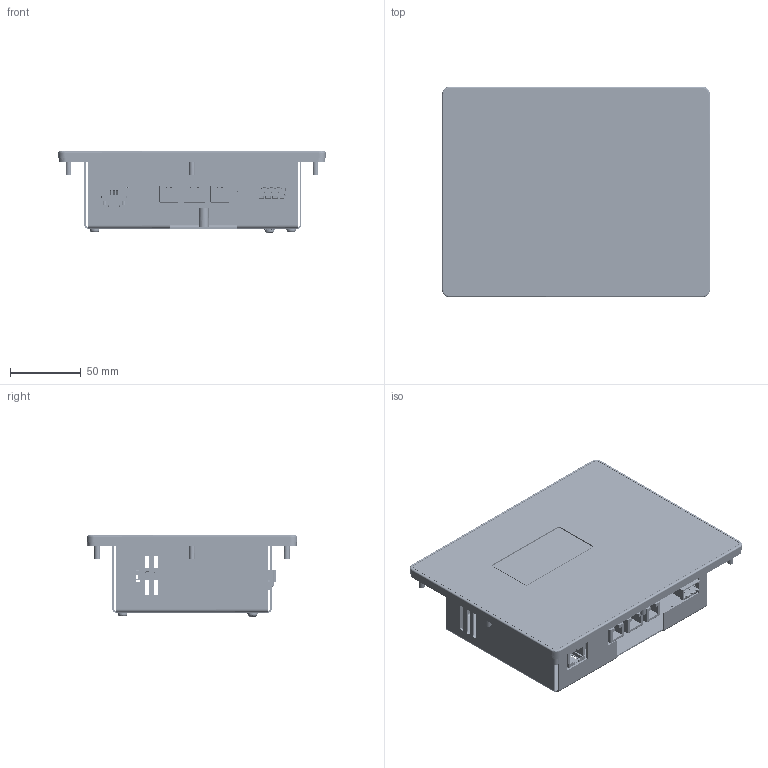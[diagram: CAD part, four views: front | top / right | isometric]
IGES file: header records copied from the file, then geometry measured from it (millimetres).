
Start section: C
Global section: file name: G303.igs; native system:  By UGS Corp.; preprocessor: XPlus GENERIC/IGES 3.0; author: Author; organization: Title; date: 20130917.102036; units: millimetre
Bounding box: 189.23 x 148.59 x 57.5 mm (x, y, z)
Surface area: 290812.3 mm2 (no closed solid volume)
Topology: 0 solids, 0 shells, 4798 faces, 27225 edges, 27198 vertices
Faces by surface type: bspline 4798
